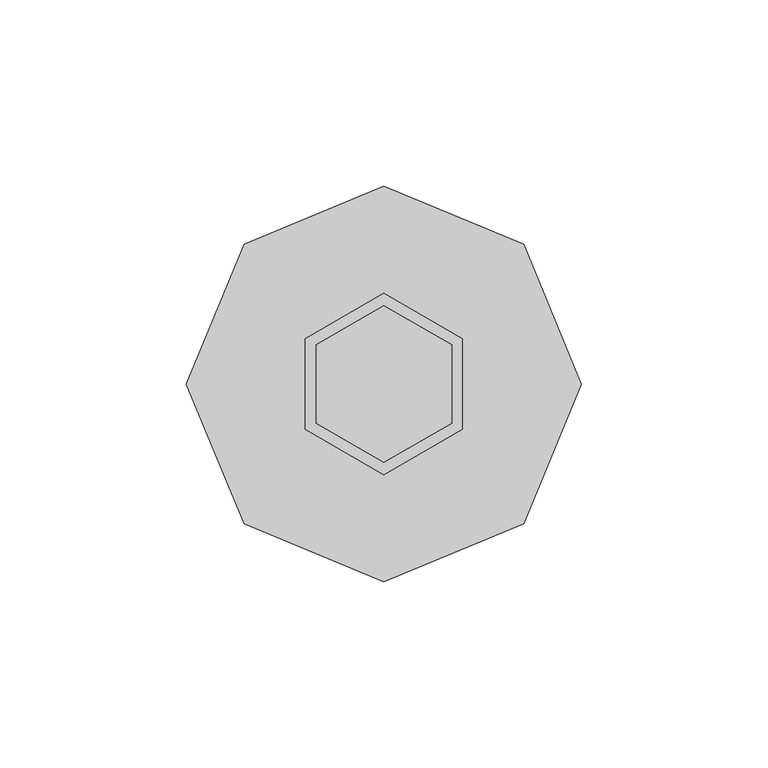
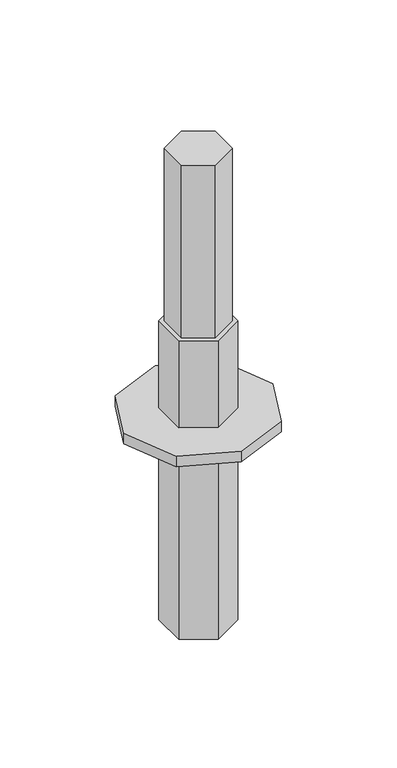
"""IFC4 building model written with IfcOpenShell, lengths in millimetres: proxy geometry, AK_アルバトロスＡＫ根がらみ支柱L=225_軽 : AK_アルバトロスＡＫ根がらみ支柱L=225_軽."""

from ifc_helpers import new_model, si_unit, frame, origin, origin_with_axes, place, context, project, spatial, polyline, outline, extrude, source, transform, mapped, element, save


def generic_models_5db8f6cd(model_context):
    return source(origin(), model_context, "Body", "SweptSolid", [
        extrude(outline(polyline([(-37.4766594, 37.4766594), (0.0, 53.0), (37.4766594, 37.4766594), (53.0, 0.0), (37.4766594, -37.4766594), (0.0, -53.0), (-37.4766594, -37.4766594), (-53.0, 0.0), (-37.4766594, 37.4766594)])), frame((0.0, 0.0, 151.0), z_axis=(0.0, 0.0, 1.0), x_axis=(1.0, 0.0, 0.0)), (0.0, 0.0, 1.0), 8.0),
        extrude(outline(polyline([(18.1865335, 10.5), (18.1865335, -10.5), (0.0, -21.0), (-18.1865335, -10.5), (-18.1865335, 10.5), (0.0, 21.0), (18.1865335, 10.5)])), frame((0.0, 0.0, 225.0), z_axis=(0.0, 0.0, 1.0), x_axis=(1.0, 0.0, 0.0)), (0.0, 0.0, 1.0), 130.0),
        extrude(outline(polyline([(-21.0444173, 12.15), (0.0, 24.3), (21.0444173, 12.15), (21.0444173, -12.15), (0.0, -24.3), (-21.0444173, -12.15), (-21.0444173, 12.15)])), origin_with_axes(), (0.0, 0.0, 1.0), 225.0),
    ])


if __name__ == "__main__":
    model = new_model("IFC4")
    model_context = context("Model", 3, world=origin())
    ifc_project = project(units=[si_unit("LENGTHUNIT", "METRE", prefix="MILLI")], contexts=[model_context])
    site = spatial("IfcSite", under=ifc_project)
    building = spatial("IfcBuilding", under=site)
    placement = place(None, origin())
    generic_models_shape = generic_models_5db8f6cd(model_context)
    element("IfcBuildingElementProxy", 1, Name="AK_アルバトロスＡＫ根がらみ支柱L=225_軽 : AK_アルバトロスＡＫ根がらみ支柱L=225_軽", ObjectType="AK_アルバトロスＡＫ根がらみ支柱L=225_軽 : AK_アルバトロスＡＫ根がらみ支柱L=225_軽", at=placement, inside=building, context=model_context, shape_type="MappedRepresentation", body=[
        mapped(generic_models_shape, transform((0.0, 0.0, 0.0), x_axis=(1.0, 0.0, 0.0), y_axis=(0.0, 1.0, 0.0), z_axis=(0.0, 0.0, 1.0))),
    ])
    save(model, "model.ifc")
